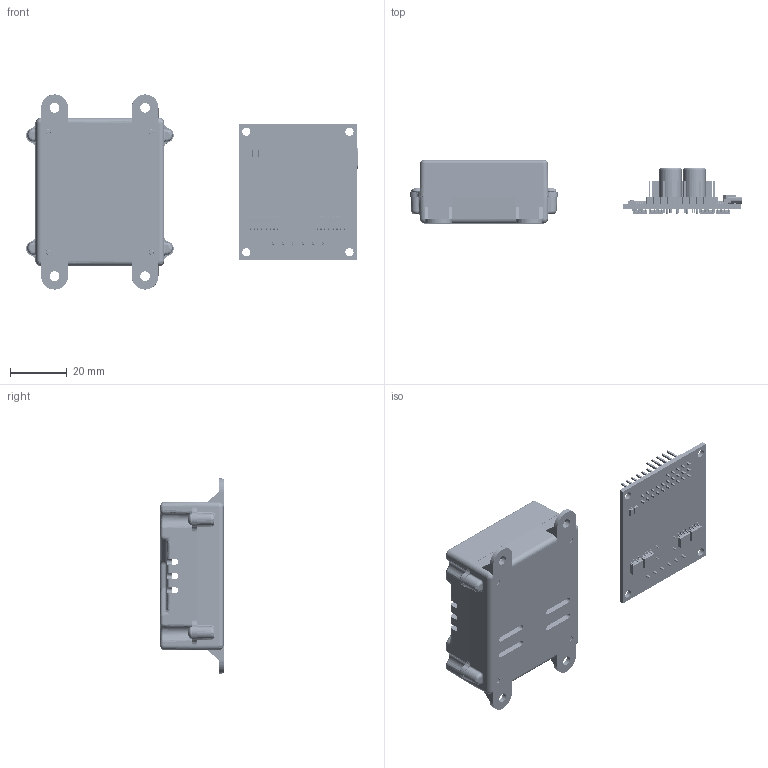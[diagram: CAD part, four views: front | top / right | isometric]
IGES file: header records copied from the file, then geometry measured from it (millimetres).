
Start section: SolidWorks IGES file using analytic representation for surfaces
Global section: file name: C:\Users\Chao A Vinh nhe!\Desktop\MC7A.IGS; native system: SolidWorks 2015; preprocessor: SolidWorks 2015; author: Chao A Vinh nhe!; date: 161110.103140; units: millimetre
Bounding box: 117.35 x 22.3 x 68.96 mm (x, y, z)
Surface area: 39533.1 mm2 (no closed solid volume)
Topology: 0 solids, 0 shells, 7227 faces, 58400 edges, 58392 vertices
Faces by surface type: bspline 4993, revolution 2234
